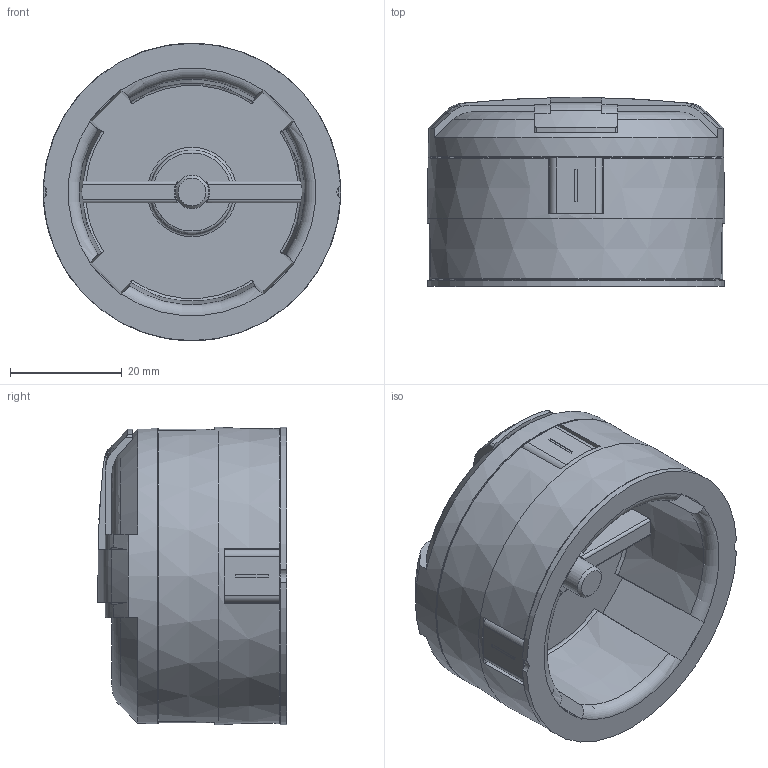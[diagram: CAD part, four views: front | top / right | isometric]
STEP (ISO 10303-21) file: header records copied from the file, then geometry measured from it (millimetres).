
FILE_DESCRIPTION(/* description */ ('STEP AP203'),/* implementation_level */ '2;1');
FILE_NAME(/* name */ 'E12829',/* time_stamp */ '2024-03-15T09:39:52+01:00',/* author */ ('License CC BY-ND 4.0'),/* organization */ ('CADENAS'),/* preprocessor_version */ 'ST-DEVELOPER v19.3',/* originating_system */ 'PARTsolutions',/* authorisation */ ' ');
FILE_SCHEMA (('CONFIG_CONTROL_DESIGN'));
Length unit declared in the file: millimetre
Products named in the file (1): E12829
Bounding box: 53.37 x 33.9 x 53.38 mm (x, y, z)
Volume: 43988.4 mm3; surface area: 13911.6 mm2
Topology: 1 solids, 2 shells, 179 faces, 490 edges, 323 vertices
Faces by surface type: plane 105, torus 33, cylinder 25, cone 15, sphere 1
Full cylindrical faces by diameter (mm): 6 x1, 6.4 x1, 50 x2
Entity records: 6973 total; most frequent: CARTESIAN_POINT 1355, ORIENTED_EDGE 944, DIRECTION 849, EDGE_CURVE 472, AXIS2_PLACEMENT_3D 321, VERTEX_POINT 315, LINE 207, VECTOR 207
